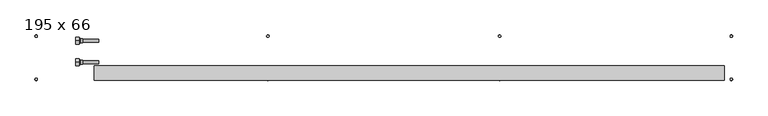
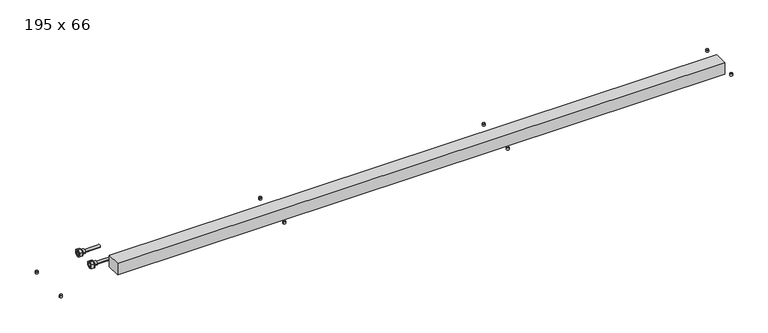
"""IFC4 building model written with IfcOpenShell, lengths in millimetres: proxy geometry, Mohlenhof_Внутрипольный конвектор_QSKM : 195 x 66."""

from ifc_helpers import new_model, si_unit, point, frame, frame_2d, origin, place, context, project, spatial, polyline, circle_curve, trimmed, segment, composite_curve, outline, extrude, source, transform, mapped, element, save
from ifc_brep_helpers import plane_surface, cylinder_surface, revolved_surface, advanced_brep


def proxy_195_x_66_c971d223(model_context):
    return source(origin(), model_context, "Body", "SolidModel", [
        extrude(outline(composite_curve([segment(trimmed(circle_curve(frame_2d((-408.3333333, -273.5)), 4.5), [point((-412.8333333, -273.5))], [point((-403.8333333, -273.5))], False, "CARTESIAN"), True, "CONTINUOUS"), segment(trimmed(circle_curve(frame_2d((-408.3333333, -273.5)), 4.5), [point((-403.8333333, -273.5))], [point((-412.8333333, -273.5))], False, "CARTESIAN"), True, "CONTINUOUS")], self_intersect=False)), frame((0.0, 0.0, -79.0), z_axis=(0.0, 0.0, 1.0), x_axis=(1.0, 0.0, 0.0)), (0.0, 0.0, 1.0), 7.0),
        extrude(outline(composite_curve([segment(trimmed(circle_curve(frame_2d((-408.3333333, -273.5)), 4.0), [point((-412.3333333, -273.5))], [point((-404.3333333, -273.5))], False, "CARTESIAN"), True, "CONTINUOUS"), segment(trimmed(circle_curve(frame_2d((-408.3333333, -273.5)), 4.0), [point((-404.3333333, -273.5))], [point((-412.3333333, -273.5))], False, "CARTESIAN"), True, "CONTINUOUS")], self_intersect=False)), frame((0.0, 0.0, -72.0), z_axis=(0.0, 0.0, 1.0), x_axis=(1.0, 0.0, 0.0)), (0.0, 0.0, 1.0), 1.5),
        extrude(outline(composite_curve([segment(trimmed(circle_curve(frame_2d((408.3333333, -273.5)), 4.5), [point((403.8333333, -273.5))], [point((412.8333333, -273.5))], False, "CARTESIAN"), True, "CONTINUOUS"), segment(trimmed(circle_curve(frame_2d((408.3333333, -273.5)), 4.5), [point((412.8333333, -273.5))], [point((403.8333333, -273.5))], False, "CARTESIAN"), True, "CONTINUOUS")], self_intersect=False)), frame((0.0, 0.0, -79.0), z_axis=(0.0, 0.0, 1.0), x_axis=(1.0, 0.0, 0.0)), (0.0, 0.0, 1.0), 7.0),
        extrude(outline(composite_curve([segment(trimmed(circle_curve(frame_2d((408.3333333, -273.5)), 4.0), [point((404.3333333, -273.5))], [point((412.3333333, -273.5))], False, "CARTESIAN"), True, "CONTINUOUS"), segment(trimmed(circle_curve(frame_2d((408.3333333, -273.5)), 4.0), [point((412.3333333, -273.5))], [point((404.3333333, -273.5))], False, "CARTESIAN"), True, "CONTINUOUS")], self_intersect=False)), frame((0.0, 0.0, -72.0), z_axis=(0.0, 0.0, 1.0), x_axis=(1.0, 0.0, 0.0)), (0.0, 0.0, 1.0), 1.5),
        extrude(outline(composite_curve([segment(trimmed(circle_curve(frame_2d((-408.3333333, -121.5)), 4.5), [point((-412.8333333, -121.5))], [point((-403.8333333, -121.5))], False, "CARTESIAN"), True, "CONTINUOUS"), segment(trimmed(circle_curve(frame_2d((-408.3333333, -121.5)), 4.5), [point((-403.8333333, -121.5))], [point((-412.8333333, -121.5))], False, "CARTESIAN"), True, "CONTINUOUS")], self_intersect=False)), frame((0.0, 0.0, -79.0), z_axis=(0.0, 0.0, 1.0), x_axis=(1.0, 0.0, 0.0)), (0.0, 0.0, 1.0), 7.0),
        extrude(outline(composite_curve([segment(trimmed(circle_curve(frame_2d((-408.3333333, -121.5)), 4.0), [point((-412.3333333, -121.5))], [point((-404.3333333, -121.5))], False, "CARTESIAN"), True, "CONTINUOUS"), segment(trimmed(circle_curve(frame_2d((-408.3333333, -121.5)), 4.0), [point((-404.3333333, -121.5))], [point((-412.3333333, -121.5))], False, "CARTESIAN"), True, "CONTINUOUS")], self_intersect=False)), frame((0.0, 0.0, -72.0), z_axis=(0.0, 0.0, 1.0), x_axis=(1.0, 0.0, 0.0)), (0.0, 0.0, 1.0), 1.5),
        extrude(outline(composite_curve([segment(trimmed(circle_curve(frame_2d((408.3333333, -121.5)), 4.5), [point((403.8333333, -121.5))], [point((412.8333333, -121.5))], False, "CARTESIAN"), True, "CONTINUOUS"), segment(trimmed(circle_curve(frame_2d((408.3333333, -121.5)), 4.5), [point((412.8333333, -121.5))], [point((403.8333333, -121.5))], False, "CARTESIAN"), True, "CONTINUOUS")], self_intersect=False)), frame((0.0, 0.0, -79.0), z_axis=(0.0, 0.0, 1.0), x_axis=(1.0, 0.0, 0.0)), (0.0, 0.0, 1.0), 7.0),
        extrude(outline(composite_curve([segment(trimmed(circle_curve(frame_2d((408.3333333, -121.5)), 4.0), [point((404.3333333, -121.5))], [point((412.3333333, -121.5))], False, "CARTESIAN"), True, "CONTINUOUS"), segment(trimmed(circle_curve(frame_2d((408.3333333, -121.5)), 4.0), [point((412.3333333, -121.5))], [point((404.3333333, -121.5))], False, "CARTESIAN"), True, "CONTINUOUS")], self_intersect=False)), frame((0.0, 0.0, -72.0), z_axis=(0.0, 0.0, 1.0), x_axis=(1.0, 0.0, 0.0)), (0.0, 0.0, 1.0), 1.5),
        advanced_brep(
        [(-1074.0, -213.0, -41.0), (-1074.0, -201.0, -41.0), (-1074.0, -225.0, -41.0), (-1061.5, -220.5, -41.0), (-1061.5, -205.5, -41.0), (-1061.5, -213.0, -41.0), (-1069.0, -220.5, -41.0), (-1069.0, -205.5, -41.0)],
        [
            (0, 1),
            (1, 2, circle_curve(frame((-1074.0, -213.0, -41.0), z_axis=(-1.0, 0.0, 0.0), x_axis=(0.0, 1.0, 0.0)), 12.0)),
            (2, 0),
            (2, 1, circle_curve(frame((-1074.0, -213.0, -41.0), z_axis=(-1.0, 0.0, 0.0), x_axis=(0.0, 1.0, 0.0)), 12.0)),
            (3, 4, circle_curve(frame((-1061.5, -213.0, -41.0), z_axis=(1.0, 0.0, 0.0), x_axis=(0.0, 1.0, 0.0)), 7.5)),
            (4, 5),
            (5, 3),
            (4, 3, circle_curve(frame((-1061.5, -213.0, -41.0), z_axis=(1.0, 0.0, 0.0), x_axis=(0.0, 1.0, 0.0)), 7.5)),
            (6, 7, circle_curve(frame((-1069.0, -213.0, -41.0), z_axis=(1.0, 0.0, 0.0), x_axis=(0.0, 1.0, 0.0)), 7.5)),
            (7, 4),
            (3, 6),
            (7, 6, circle_curve(frame((-1069.0, -213.0, -41.0), z_axis=(1.0, 0.0, 0.0), x_axis=(0.0, 1.0, 0.0)), 7.5)),
            (1, 7),
            (6, 2),
        ],
        [
            plane_surface(frame((-1074.0, -213.0, -41.0), z_axis=(-1.0, 0.0, 0.0), x_axis=(0.0, 1.0, 0.0))),
            plane_surface(frame((-1061.5, -213.0, -41.0), z_axis=(1.0, 0.0, 0.0), x_axis=(0.0, 1.0, 0.0))),
            cylinder_surface(frame((-1074.0, -213.0, -41.0), z_axis=(-1.0, 0.0, 0.0), x_axis=(0.0, 1.0, 0.0)), 7.5),
            revolved_surface(polyline([(-1069.0, -205.5, -41.0), (-1074.0, -201.0, -41.0)]), (-1074.0, -213.0, -41.0), (-1.0, 0.0, 0.0)),
        ],
        [
            (0, [[1, 2, 3]]),
            (0, [[-3, 4, -1]]),
            (1, [[5, 6, 7]]),
            (1, [[8, -7, -6]]),
            (2, [[9, 10, -5, 11]]),
            (2, [[12, -11, -8, -10]]),
            (3, [[-2, 13, -9, 14]]),
            (3, [[-4, -14, -12, -13]]),
        ],
    ),
        extrude(outline(polyline([(-213.0, -27.1435935), (-201.0, -34.0717968), (-201.0, -47.9282032), (-213.0, -54.8564065), (-225.0, -47.9282032), (-225.0, -34.0717968), (-213.0, -27.1435935)]), holes=[composite_curve([segment(trimmed(circle_curve(frame_2d((-213.0, -41.0)), 8.5), [point((-204.5, -41.0))], [point((-221.5, -41.0))], True, "CARTESIAN"), True, "CONTINUOUS"), segment(trimmed(circle_curve(frame_2d((-213.0, -41.0)), 8.5), [point((-221.5, -41.0))], [point((-204.5, -41.0))], True, "CARTESIAN"), True, "CONTINUOUS")], self_intersect=False)]), frame((-1085.0, 0.0, 0.0), z_axis=(1.0, 0.0, 0.0), x_axis=(0.0, 1.0, 0.0)), (0.0, 0.0, 1.0), 11.0),
        advanced_brep(
        [(-1074.0, -138.0, -41.0), (-1074.0, -126.0, -41.0), (-1074.0, -150.0, -41.0), (-1061.5, -145.5, -41.0), (-1061.5, -130.5, -41.0), (-1061.5, -138.0, -41.0), (-1069.0, -145.5, -41.0), (-1069.0, -130.5, -41.0)],
        [
            (0, 1),
            (1, 2, circle_curve(frame((-1074.0, -138.0, -41.0), z_axis=(-1.0, 0.0, 0.0), x_axis=(0.0, 1.0, 0.0)), 12.0)),
            (2, 0),
            (2, 1, circle_curve(frame((-1074.0, -138.0, -41.0), z_axis=(-1.0, 0.0, 0.0), x_axis=(0.0, 1.0, 0.0)), 12.0)),
            (3, 4, circle_curve(frame((-1061.5, -138.0, -41.0), z_axis=(1.0, 0.0, 0.0), x_axis=(0.0, 1.0, 0.0)), 7.5)),
            (4, 5),
            (5, 3),
            (4, 3, circle_curve(frame((-1061.5, -138.0, -41.0), z_axis=(1.0, 0.0, 0.0), x_axis=(0.0, 1.0, 0.0)), 7.5)),
            (6, 7, circle_curve(frame((-1069.0, -138.0, -41.0), z_axis=(1.0, 0.0, 0.0), x_axis=(0.0, 1.0, 0.0)), 7.5)),
            (7, 4),
            (3, 6),
            (7, 6, circle_curve(frame((-1069.0, -138.0, -41.0), z_axis=(1.0, 0.0, 0.0), x_axis=(0.0, 1.0, 0.0)), 7.5)),
            (1, 7),
            (6, 2),
        ],
        [
            plane_surface(frame((-1074.0, -138.0, -41.0), z_axis=(-1.0, 0.0, 0.0), x_axis=(0.0, 1.0, 0.0))),
            plane_surface(frame((-1061.5, -138.0, -41.0), z_axis=(1.0, 0.0, 0.0), x_axis=(0.0, 1.0, 0.0))),
            cylinder_surface(frame((-1074.0, -138.0, -41.0), z_axis=(-1.0, 0.0, 0.0), x_axis=(0.0, 1.0, 0.0)), 7.5),
            revolved_surface(polyline([(-1069.0, -130.5, -41.0), (-1074.0, -126.0, -41.0)]), (-1074.0, -138.0, -41.0), (-1.0, 0.0, 0.0)),
        ],
        [
            (0, [[1, 2, 3]]),
            (0, [[-3, 4, -1]]),
            (1, [[5, 6, 7]]),
            (1, [[8, -7, -6]]),
            (2, [[9, 10, -5, 11]]),
            (2, [[12, -11, -8, -10]]),
            (3, [[-2, 13, -9, 14]]),
            (3, [[-4, -14, -12, -13]]),
        ],
    ),
        extrude(outline(polyline([(-138.0, -27.1435935), (-126.0, -34.0717968), (-126.0, -47.9282032), (-138.0, -54.8564065), (-150.0, -47.9282032), (-150.0, -34.0717968), (-138.0, -27.1435935)]), holes=[composite_curve([segment(trimmed(circle_curve(frame_2d((-138.0, -41.0)), 8.5), [point((-129.5, -41.0))], [point((-146.5, -41.0))], True, "CARTESIAN"), True, "CONTINUOUS"), segment(trimmed(circle_curve(frame_2d((-138.0, -41.0)), 8.5), [point((-146.5, -41.0))], [point((-129.5, -41.0))], True, "CARTESIAN"), True, "CONTINUOUS")], self_intersect=False)]), frame((-1085.0, 0.0, 0.0), z_axis=(1.0, 0.0, 0.0), x_axis=(0.0, 1.0, 0.0)), (0.0, 0.0, 1.0), 11.0),
        extrude(outline(composite_curve([segment(trimmed(circle_curve(frame_2d((-1225.0, -273.5)), 4.5), [point((-1229.5, -273.5))], [point((-1220.5, -273.5))], False, "CARTESIAN"), True, "CONTINUOUS"), segment(trimmed(circle_curve(frame_2d((-1225.0, -273.5)), 4.5), [point((-1220.5, -273.5))], [point((-1229.5, -273.5))], False, "CARTESIAN"), True, "CONTINUOUS")], self_intersect=False)), frame((0.0, 0.0, -79.0), z_axis=(0.0, 0.0, 1.0), x_axis=(1.0, 0.0, 0.0)), (0.0, 0.0, 1.0), 7.0),
        extrude(outline(composite_curve([segment(trimmed(circle_curve(frame_2d((-1225.0, -273.5)), 4.0), [point((-1229.0, -273.5))], [point((-1221.0, -273.5))], False, "CARTESIAN"), True, "CONTINUOUS"), segment(trimmed(circle_curve(frame_2d((-1225.0, -273.5)), 4.0), [point((-1221.0, -273.5))], [point((-1229.0, -273.5))], False, "CARTESIAN"), True, "CONTINUOUS")], self_intersect=False)), frame((0.0, 0.0, -72.0), z_axis=(0.0, 0.0, 1.0), x_axis=(1.0, 0.0, 0.0)), (0.0, 0.0, 1.0), 1.5),
        extrude(outline(composite_curve([segment(trimmed(circle_curve(frame_2d((-1225.0, -121.5)), 4.5), [point((-1229.5, -121.5))], [point((-1220.5, -121.5))], False, "CARTESIAN"), True, "CONTINUOUS"), segment(trimmed(circle_curve(frame_2d((-1225.0, -121.5)), 4.5), [point((-1220.5, -121.5))], [point((-1229.5, -121.5))], False, "CARTESIAN"), True, "CONTINUOUS")], self_intersect=False)), frame((0.0, 0.0, -79.0), z_axis=(0.0, 0.0, 1.0), x_axis=(1.0, 0.0, 0.0)), (0.0, 0.0, 1.0), 7.0),
        extrude(outline(composite_curve([segment(trimmed(circle_curve(frame_2d((-1225.0, -121.5)), 4.0), [point((-1229.0, -121.5))], [point((-1221.0, -121.5))], False, "CARTESIAN"), True, "CONTINUOUS"), segment(trimmed(circle_curve(frame_2d((-1225.0, -121.5)), 4.0), [point((-1221.0, -121.5))], [point((-1229.0, -121.5))], False, "CARTESIAN"), True, "CONTINUOUS")], self_intersect=False)), frame((0.0, 0.0, -72.0), z_axis=(0.0, 0.0, 1.0), x_axis=(1.0, 0.0, 0.0)), (0.0, 0.0, 1.0), 1.5),
        extrude(outline(composite_curve([segment(trimmed(circle_curve(frame_2d((1225.0, -273.5)), 4.5), [point((1220.5, -273.5))], [point((1229.5, -273.5))], False, "CARTESIAN"), True, "CONTINUOUS"), segment(trimmed(circle_curve(frame_2d((1225.0, -273.5)), 4.5), [point((1229.5, -273.5))], [point((1220.5, -273.5))], False, "CARTESIAN"), True, "CONTINUOUS")], self_intersect=False)), frame((0.0, 0.0, -79.0), z_axis=(0.0, 0.0, 1.0), x_axis=(1.0, 0.0, 0.0)), (0.0, 0.0, 1.0), 7.0),
        extrude(outline(composite_curve([segment(trimmed(circle_curve(frame_2d((1225.0, -273.5)), 4.0), [point((1221.0, -273.5))], [point((1229.0, -273.5))], False, "CARTESIAN"), True, "CONTINUOUS"), segment(trimmed(circle_curve(frame_2d((1225.0, -273.5)), 4.0), [point((1229.0, -273.5))], [point((1221.0, -273.5))], False, "CARTESIAN"), True, "CONTINUOUS")], self_intersect=False)), frame((0.0, 0.0, -72.0), z_axis=(0.0, 0.0, 1.0), x_axis=(1.0, 0.0, 0.0)), (0.0, 0.0, 1.0), 1.5),
        extrude(outline(composite_curve([segment(trimmed(circle_curve(frame_2d((1225.0, -121.5)), 4.5), [point((1220.5, -121.5))], [point((1229.5, -121.5))], False, "CARTESIAN"), True, "CONTINUOUS"), segment(trimmed(circle_curve(frame_2d((1225.0, -121.5)), 4.5), [point((1229.5, -121.5))], [point((1220.5, -121.5))], False, "CARTESIAN"), True, "CONTINUOUS")], self_intersect=False)), frame((0.0, 0.0, -79.0), z_axis=(0.0, 0.0, 1.0), x_axis=(1.0, 0.0, 0.0)), (0.0, 0.0, 1.0), 7.0),
        extrude(outline(composite_curve([segment(trimmed(circle_curve(frame_2d((1225.0, -121.5)), 4.0), [point((1221.0, -121.5))], [point((1229.0, -121.5))], False, "CARTESIAN"), True, "CONTINUOUS"), segment(trimmed(circle_curve(frame_2d((1225.0, -121.5)), 4.0), [point((1229.0, -121.5))], [point((1221.0, -121.5))], False, "CARTESIAN"), True, "CONTINUOUS")], self_intersect=False)), frame((0.0, 0.0, -72.0), z_axis=(0.0, 0.0, 1.0), x_axis=(1.0, 0.0, 0.0)), (0.0, 0.0, 1.0), 1.5),
        extrude(outline(polyline([(1200.0, -225.87), (1200.0, -277.18), (-1020.0, -277.18), (-1020.0, -225.87), (1200.0, -225.87)])), frame((0.0, 0.0, -62.5), z_axis=(0.0, 0.0, 1.0), x_axis=(1.0, 0.0, 0.0)), (0.0, 0.0, 1.0), 43.62),
        extrude(outline(composite_curve([segment(trimmed(circle_curve(frame_2d((-213.0, -41.0)), 5.0), [point((-218.0, -41.0))], [point((-208.0, -41.0))], False, "CARTESIAN"), True, "CONTINUOUS"), segment(trimmed(circle_curve(frame_2d((-213.0, -41.0)), 5.0), [point((-208.0, -41.0))], [point((-218.0, -41.0))], False, "CARTESIAN"), True, "CONTINUOUS")], self_intersect=False)), frame((-1085.0, 0.0, 0.0), z_axis=(1.0, 0.0, 0.0), x_axis=(0.0, 1.0, 0.0)), (0.0, 0.0, 1.0), 80.0),
        extrude(outline(composite_curve([segment(trimmed(circle_curve(frame_2d((-138.0, -41.0)), 5.0), [point((-143.0, -41.0))], [point((-133.0, -41.0))], False, "CARTESIAN"), True, "CONTINUOUS"), segment(trimmed(circle_curve(frame_2d((-138.0, -41.0)), 5.0), [point((-133.0, -41.0))], [point((-143.0, -41.0))], False, "CARTESIAN"), True, "CONTINUOUS")], self_intersect=False)), frame((-1085.0, 0.0, 0.0), z_axis=(1.0, 0.0, 0.0), x_axis=(0.0, 1.0, 0.0)), (0.0, 0.0, 1.0), 80.0),
    ])


if __name__ == "__main__":
    model = new_model("IFC4")
    model_context = context("Model", 3, world=origin())
    ifc_project = project(units=[si_unit("LENGTHUNIT", "METRE", prefix="MILLI")], contexts=[model_context])
    site = spatial("IfcSite", under=ifc_project)
    building = spatial("IfcBuilding", under=site)
    placement = place(None, origin())
    proxy_195_x_66_shape = proxy_195_x_66_c971d223(model_context)
    element("IfcBuildingElementProxy", 1, Name="Mohlenhof_Внутрипольный конвектор_QSKM : 195 x 66", ObjectType="Mohlenhof_Внутрипольный конвектор_QSKM : 195 x 66", at=placement, inside=building, context=model_context, shape_type="MappedRepresentation", body=[
        mapped(proxy_195_x_66_shape, transform((0.0, 0.0, 0.0), x_axis=(1.0, 0.0, 0.0), y_axis=(0.0, 1.0, 0.0), z_axis=(0.0, 0.0, 1.0))),
    ])
    save(model, "model.ifc")
